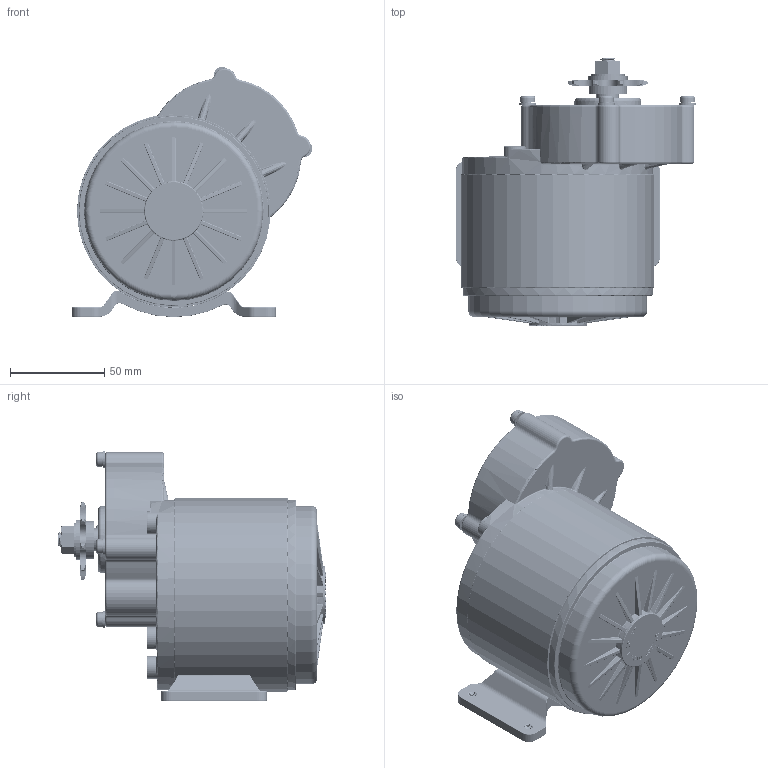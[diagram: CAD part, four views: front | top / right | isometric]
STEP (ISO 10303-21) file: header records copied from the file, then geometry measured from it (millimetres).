
FILE_DESCRIPTION(/* description */ ('Elektromotor mit angeflanschtem Getriebe. https://www.amazon.de/Getriebemotor-Montagefu%C3%9F-Stirnradgetriebe-wechselbar-Lastenfahrrad/dp/B078S7QCP7/ref=sr_1_1?keywords=Zhejiang+Unite+Electric+Motor+Co.%2C+Ltd.&qid=1568525085&sr=8-1','CAx-IF Rec.Pracs.---Representation and Presentation of Product Manufacturing Information (PMI)---4.0---2014-10-13'),/* implementation_level */ '2;1');
FILE_NAME(/* name */ 'Zhejiang2 v1.step',/* time_stamp */ '2025-03-17T13:41:56+13:00',/* author */ (''),/* organization */ (''),/* preprocessor_version */ 'ST-DEVELOPER v20',/* originating_system */ 'Autodesk Translation Framework v13.20.0.188',/* authorisation */ '');
FILE_SCHEMA (('AP242_MANAGED_MODEL_BASED_3D_ENGINEERING_MIM_LF { 1 0 10303 442 1 1 4 }'));
Length unit declared in the file: millimetre
Products named in the file (7): Zhejiang2; Mutter M8 95003A102; Rollkettenrad 9 Zähne 2302K104; 92492A228; 95610A150; 92153A418; 92010A242
Assembly tree (17 placements, depth 2):
  Zhejiang2
    Mutter M8 95003A102
    Rollkettenrad 9 Zähne 2302K104
    92492A228  x4
    95610A150  x4
    92153A418  x4
    92010A242  x3
Bounding box: 127.22 x 141.9 x 132.49 mm (x, y, z)
Volume: 880433.5 mm3; surface area: 129255.8 mm2
Topology: 23 solids, 23 shells, 2694 faces, 7184 edges, 4558 vertices
Faces by surface type: cylinder 1384, bspline 495, plane 485, torus 258, cone 65, sphere 7
Full cylindrical faces by diameter (mm): 3 x1, 3.053 x156, 3.097 x112, 3.332 x64, 4 x267, 4.109 x14, 4.11 x14, 4.234 x12, 4.3 x4, 4.5 x7, 5 x3, 5.12 x12, 6.376 x4, 6.446 x5, 7.866 x10, 8 x9, 9 x4, 10 x1, 12 x4, 17.9 x1, 20.332 x1, 21 x1, 31 x1, 35.3 x1, 94.7 x1, 101 x1, 102.4 x1
Entity records: 106975 total; most frequent: CARTESIAN_POINT 58843, ORIENTED_EDGE 11066, DIRECTION 8532, EDGE_CURVE 5533, VERTEX_POINT 3476, AXIS2_PLACEMENT_3D 3285, EDGE_LOOP 2199, FACE_OUTER_BOUND 2126
